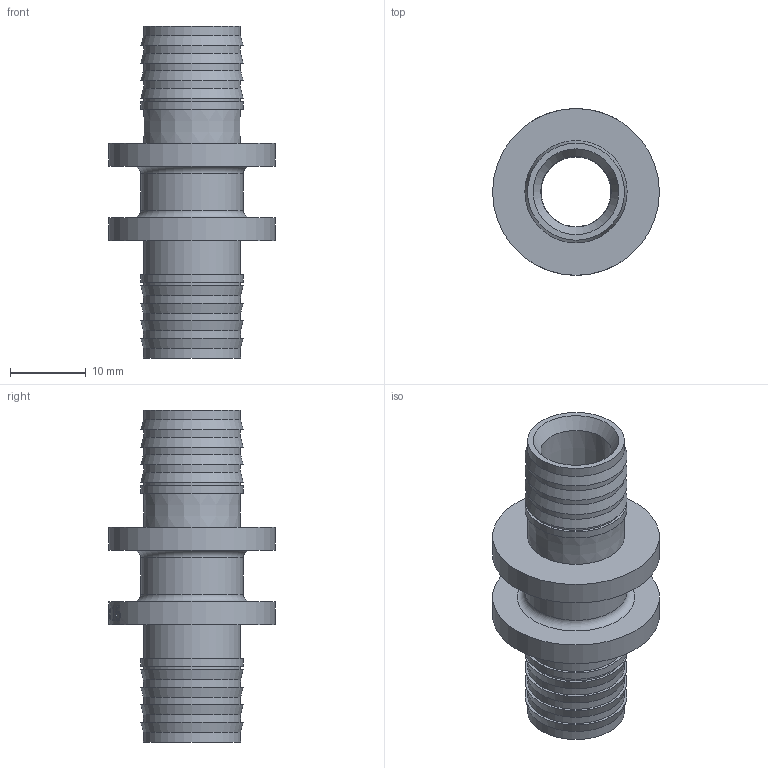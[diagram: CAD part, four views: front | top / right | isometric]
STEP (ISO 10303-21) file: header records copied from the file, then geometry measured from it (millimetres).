
FILE_DESCRIPTION(/* description */ (''),/* implementation_level */ '2;1');
FILE_NAME(/* name */ 'C:\Users\Doom\Desktop\Фадотех\Натяжка\FD-SFM01NEW 26.12.2019\FFADO-SFM01NEW 26.12.2019.stp',/* time_stamp */ '2022-07-21T16:27:47+03:00',/* author */ ('Doom'),/* organization */ (''),/* preprocessor_version */ 'ST-DEVELOPER v18',/* originating_system */ 'Autodesk Inventor 2020',/* authorisation */ '');
FILE_SCHEMA (('AUTOMOTIVE_DESIGN { 1 0 10303 214 3 1 1 }'));
Length unit declared in the file: millimetre
Products named in the file (1): FADO-SFM01NEW 26.12.2019
Bounding box: 22 x 22 x 43.8 mm (x, y, z)
Volume: 4335.5 mm3; surface area: 4471.8 mm2
Topology: 1 solids, 1 shells, 152 faces, 420 edges, 288 vertices
Faces by surface type: bspline 57, plane 48, cone 25, cylinder 20, torus 2
Full cylindrical faces by diameter (mm): 9.3 x1, 12.8 x6, 13.5 x2, 22 x2
Entity records: 6248 total; most frequent: CARTESIAN_POINT 2538, ORIENTED_EDGE 840, DIRECTION 640, EDGE_CURVE 420, VERTEX_POINT 288, AXIS2_PLACEMENT_3D 238, EDGE_LOOP 172, LINE 164
